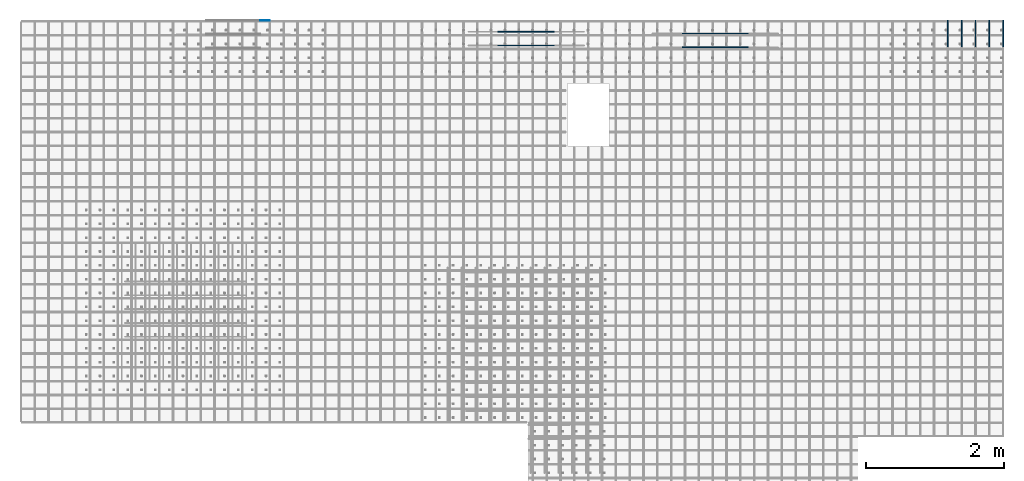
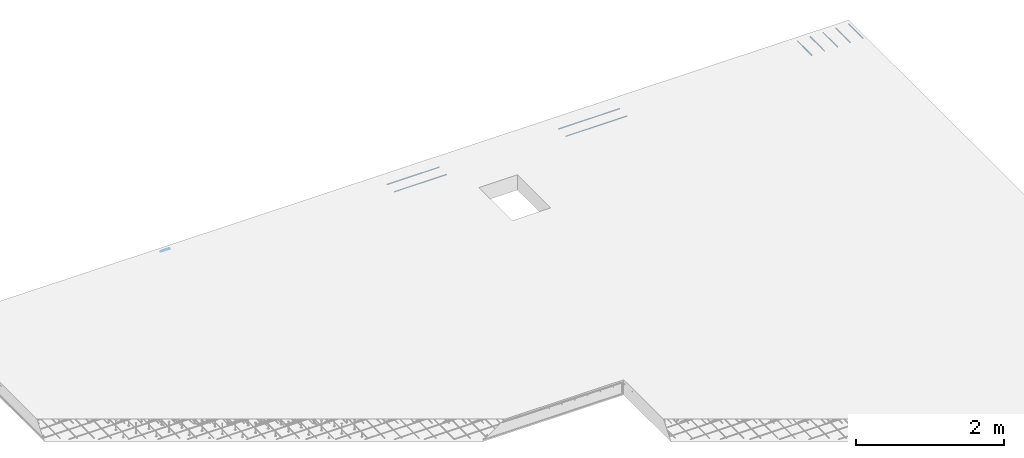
# One storey, part 4 of 4: 4 reinforcing bars.
"""IFC4 building model written with IfcOpenShell, lengths in metres."""

from ifc_helpers import new_model, entity, si_unit, frame, origin_with_axes, place, context, project, spatial, source, transform, mapped, element, save


model = new_model("IFC4")

# Units and contexts
model_context = context("Model", 3, precision=1e-05, world=origin_with_axes())
ifc_project = project(units=[si_unit("LENGTHUNIT", "METRE"), si_unit("AREAUNIT", "SQUARE_METRE"), si_unit("VOLUMEUNIT", "CUBIC_METRE"), si_unit("MASSUNIT", "GRAM", prefix="KILO"), si_unit("TIMEUNIT", "SECOND"), si_unit("PLANEANGLEUNIT", "RADIAN"), si_unit("SOLIDANGLEUNIT", "STERADIAN"), si_unit("THERMODYNAMICTEMPERATUREUNIT", "DEGREE_CELSIUS")], contexts=[model_context])

# Site, building, storey
placement_1 = place(None, origin_with_axes())
site = spatial("IfcSite", under=ifc_project, at=placement_1, Name="Italia", CompositionType="ELEMENT")
building = spatial("IfcBuilding", under=site, at=placement_1, Name="Abitazione", CompositionType="ELEMENT")
storey_placement = place(None, frame((0.0, 0.0, 6.730000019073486), z_axis=(0.0, 0.0, 1.0), x_axis=(1.0, 0.0, 0.0)))
storey = spatial("IfcBuildingStorey", under=building, at=storey_placement, Name="Storey 2", CompositionType="ELEMENT", Elevation=6.730000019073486)

# Reinforcing bars
shared_shape_1 = source(origin_with_axes(), model_context, "Body", "AdvancedSweptSolid", [
    entity("IfcSweptDiskSolid", entity("IfcIndexedPolyCurve", entity("IfcCartesianPointList3D", [[7.69753, 11.0513, 6.676], [8.51344, 11.0513, 6.676]]), [entity("IfcLineIndex", [1, 2])], False), 0.006),
])
placement_2 = place(placement_1, origin_with_axes())
reinforcing_bar_1_placement = place(placement_2, origin_with_axes())
element("IfcReinforcingBar", 1, at=reinforcing_bar_1_placement, inside=storey, BarLength=0.815909, CrossSectionArea=0.0001131, NominalDiameter=0.012, context=model_context, shape_type="MappedRepresentation", body=[
    mapped(shared_shape_1, transform((0.0, 0.199999, 0.0), x_axis=(1.0, 0.0, 0.0), y_axis=(0.0, 1.0, 0.0), z_axis=(0.0, 0.0, 1.0), scale=1.0)),
    mapped(shared_shape_1, transform((0.0, 0.0, 0.0), x_axis=(1.0, 0.0, 0.0), y_axis=(0.0, 1.0, 0.0), z_axis=(0.0, 0.0, 1.0), scale=1.0)),
])
shared_shape_2 = source(origin_with_axes(), model_context, "Body", "AdvancedSweptSolid", [
    entity("IfcSweptDiskSolid", entity("IfcIndexedPolyCurve", entity("IfcCartesianPointList3D", [[4.2626, 11.4124, 6.676], [4.3958, 11.4124, 6.676]]), [entity("IfcLineIndex", [1, 2])], False), 0.006),
])
reinforcing_bar_2_placement = place(placement_2, origin_with_axes())
element("IfcReinforcingBar", 2, at=reinforcing_bar_2_placement, inside=storey, BarLength=0.133206, CrossSectionArea=0.0001131, NominalDiameter=0.012, context=model_context, shape_type="MappedRepresentation", body=[
    mapped(shared_shape_2, transform((0.0, 0.0, 0.0), x_axis=(1.0, 0.0, 0.0), y_axis=(0.0, 1.0, 0.0), z_axis=(0.0, 0.0, 1.0), scale=1.0)),
])
shared_shape_3 = source(origin_with_axes(), model_context, "Body", "AdvancedSweptSolid", [
    entity("IfcSweptDiskSolid", entity("IfcIndexedPolyCurve", entity("IfcCartesianPointList3D", [[10.3576, 11.0249, 6.676], [11.3136, 11.0249, 6.676]]), [entity("IfcLineIndex", [1, 2])], False), 0.006),
])
reinforcing_bar_3_placement = place(placement_2, origin_with_axes())
element("IfcReinforcingBar", 3, at=reinforcing_bar_3_placement, inside=storey, BarLength=0.955909, CrossSectionArea=0.0001131, NominalDiameter=0.012, context=model_context, shape_type="MappedRepresentation", body=[
    mapped(shared_shape_3, transform((0.0, 0.200001, 0.0), x_axis=(1.0, 0.0, 0.0), y_axis=(0.0, 1.0, 0.0), z_axis=(0.0, 0.0, 1.0), scale=1.0)),
    mapped(shared_shape_3, transform((0.0, 0.0, 0.0), x_axis=(1.0, 0.0, 0.0), y_axis=(0.0, 1.0, 0.0), z_axis=(0.0, 0.0, 1.0), scale=1.0)),
])
shared_shape_4 = source(origin_with_axes(), model_context, "Body", "AdvancedSweptSolid", [
    entity("IfcSweptDiskSolid", entity("IfcIndexedPolyCurve", entity("IfcCartesianPointList3D", [[14.2003, 11.0328, 6.664], [14.2003, 11.42, 6.664]]), [entity("IfcLineIndex", [1, 2])], False), 0.006),
])
reinforcing_bar_4_placement = place(placement_2, origin_with_axes())
element("IfcReinforcingBar", 4, at=reinforcing_bar_4_placement, inside=storey, BarLength=0.387218, CrossSectionArea=0.0001131, NominalDiameter=0.012, context=model_context, shape_type="MappedRepresentation", body=[
    mapped(shared_shape_4, transform((0.0, 0.0, 0.0), x_axis=(1.0, 0.0, 0.0), y_axis=(0.0, 1.0, 0.0), z_axis=(0.0, 0.0, 1.0), scale=1.0)),
    mapped(shared_shape_4, transform((0.2, 0.0, 0.0), x_axis=(1.0, 0.0, 0.0), y_axis=(0.0, 1.0, 0.0), z_axis=(0.0, 0.0, 1.0), scale=1.0)),
    mapped(shared_shape_4, transform((0.4, 0.0, 0.0), x_axis=(1.0, 0.0, 0.0), y_axis=(0.0, 1.0, 0.0), z_axis=(0.0, 0.0, 1.0), scale=1.0)),
    mapped(shared_shape_4, transform((0.599999, 0.0, 0.0), x_axis=(1.0, 0.0, 0.0), y_axis=(0.0, 1.0, 0.0), z_axis=(0.0, 0.0, 1.0), scale=1.0)),
    mapped(shared_shape_4, transform((0.799999, 0.0, 0.0), x_axis=(1.0, 0.0, 0.0), y_axis=(0.0, 1.0, 0.0), z_axis=(0.0, 0.0, 1.0), scale=1.0)),
])

save(model, "model.ifc")
